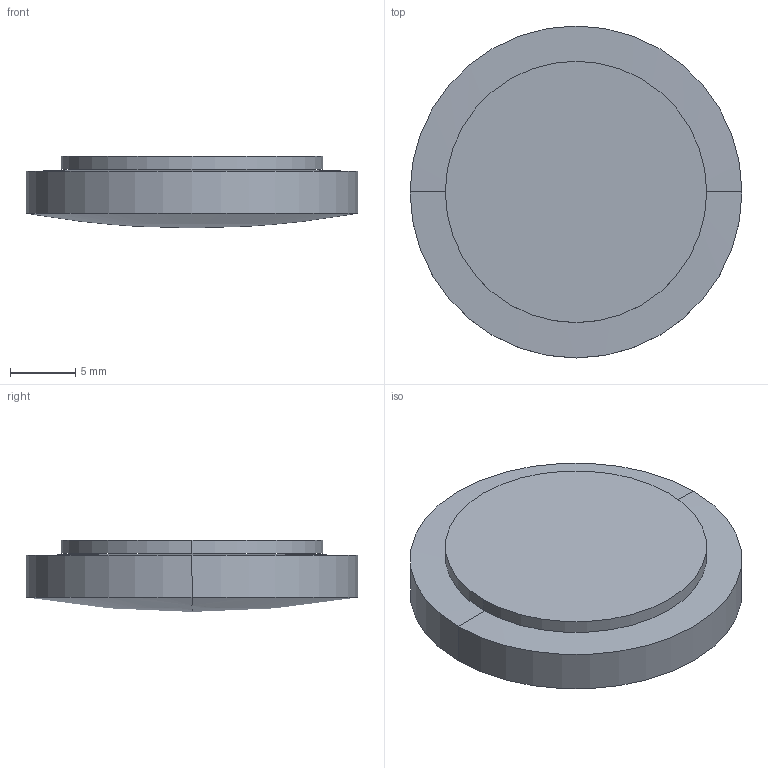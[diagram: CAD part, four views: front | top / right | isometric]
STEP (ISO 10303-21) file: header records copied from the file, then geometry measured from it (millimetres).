
FILE_DESCRIPTION(('STEP AP214'),'1');
FILE_NAME('LLV-25125.STEP','2020-03-09T17:42:20',(' '),(' '),'Spatial InterOp 3D',' ',' ');
FILE_SCHEMA(('AUTOMOTIVE_DESIGN { 1 0 10303 214 1 1 1 1 }'));
Length unit declared in the file: millimetre
Products named in the file (1): 1
Bounding box: 25.4 x 25.4 x 5.5 mm (x, y, z)
Volume: 2269.7 mm3; surface area: 1965.1 mm2
Topology: 2 solids, 2 shells, 10 faces, 20 edges, 10 vertices
Faces by surface type: sphere 4, cylinder 4, plane 2
Entity records: 255 total; most frequent: DIRECTION 52, CARTESIAN_POINT 38, ORIENTED_EDGE 32, AXIS2_PLACEMENT_3D 24, EDGE_CURVE 16, CIRCLE 12, ADVANCED_FACE 10, FACE_OUTER_BOUND 10
